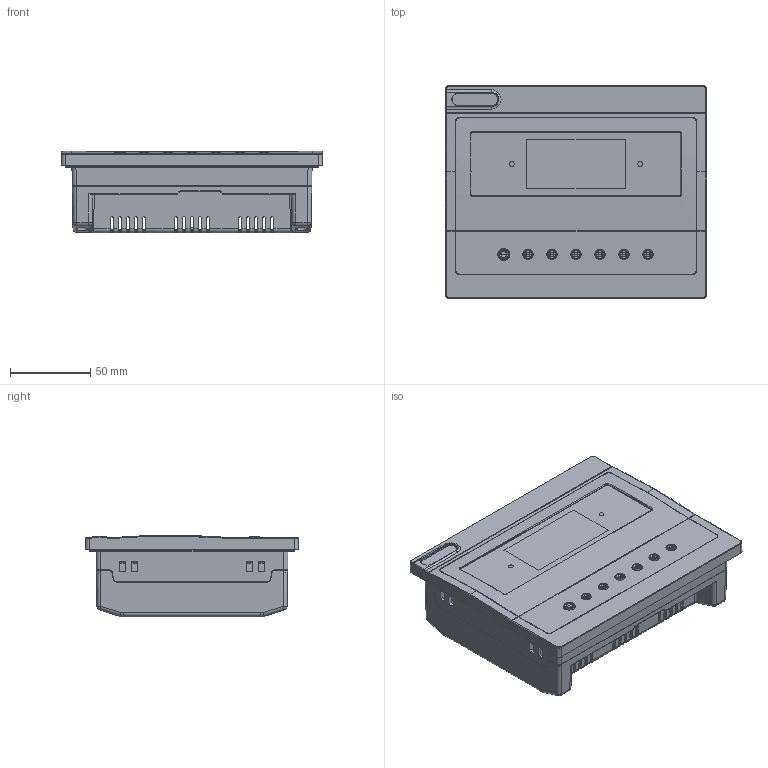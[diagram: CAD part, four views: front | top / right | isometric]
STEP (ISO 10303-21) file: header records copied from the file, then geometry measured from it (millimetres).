
FILE_DESCRIPTION (( 'STEP AP203' ), '1' );
FILE_NAME ('BQ3H.STEP', '2019-10-14T02:54:24', ( 'Sky123.Org' ), ( 'Sky123.Org' ), 'SwSTEP 2.0', 'SolidWorks 2018', '' );
FILE_SCHEMA (( 'CONFIG_CONTROL_DESIGN' ));
Products named in the file (1): BQ3H
Bounding box: 163 x 133 x 50.9 mm (x, y, z)
Volume: 243565.5 mm3; surface area: 261341.6 mm2
Topology: 6 solids, 6 shells, 4578 faces, 12492 edges, 7974 vertices
Faces by surface type: plane 3283, cylinder 726, cone 250, torus 232, bspline 61, sphere 26
Entity records: 144584 total; most frequent: CARTESIAN_POINT 29897, ORIENTED_EDGE 24972, DIRECTION 22493, EDGE_CURVE 12486, VECTOR 9463, LINE 9463, VERTEX_POINT 7974, AXIS2_PLACEMENT_3D 6515
